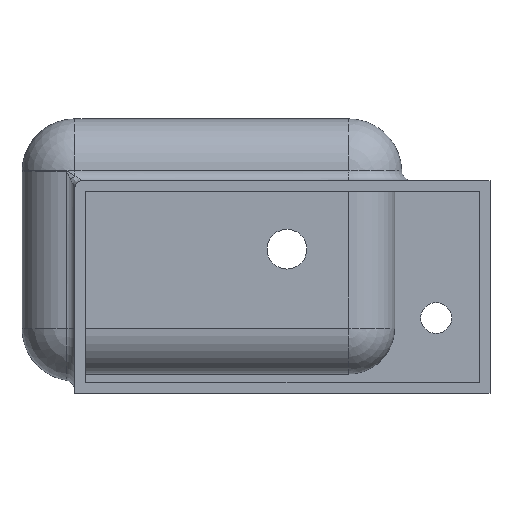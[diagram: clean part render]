
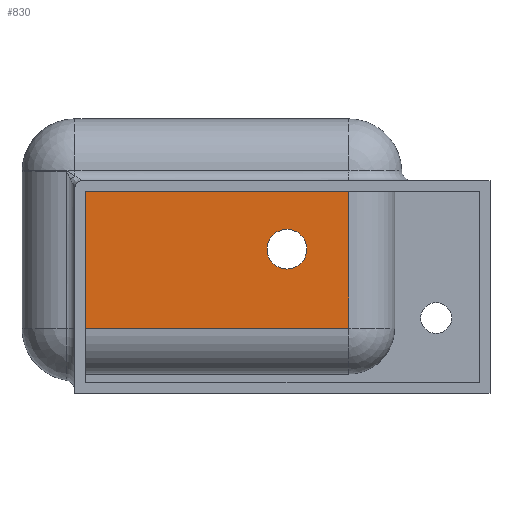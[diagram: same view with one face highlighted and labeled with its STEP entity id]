
A CAD part, front view. The second image highlights one B-rep face of the part: STEP entity #830.
In plain terms, the highlighted planar face has unit normal (0, -1, 0).
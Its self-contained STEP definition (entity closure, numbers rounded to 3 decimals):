
#76 = DIRECTION ( 'NONE',  ( 0., 0., 1. ) ) ;
#107 = ORIENTED_EDGE ( 'NONE', *, *, #1376, .T. ) ;
#189 = EDGE_CURVE ( 'NONE', #1817, #263, #2464, .T. ) ;
#208 = EDGE_CURVE ( 'NONE', #1849, #2420, #796, .T. ) ;
#244 = ORIENTED_EDGE ( 'NONE', *, *, #2140, .T. ) ;
#263 = VERTEX_POINT ( 'NONE', #1877 ) ;
#284 = CARTESIAN_POINT ( 'NONE',  ( 370., -87., 0. ) ) ;
#414 = AXIS2_PLACEMENT_3D ( 'NONE', #2504, #1986, #953 ) ;
#431 = DIRECTION ( 'NONE',  ( 0., 0., 1. ) ) ;
#479 = CARTESIAN_POINT ( 'NONE',  ( 300., -87., 126.928 ) ) ;
#614 = FACE_OUTER_BOUND ( 'NONE', #1394, .T. ) ;
#616 = CARTESIAN_POINT ( 'NONE',  ( 300., -87., 149.428 ) ) ;
#674 = DIRECTION ( 'NONE',  ( 0., 1., 0. ) ) ;
#725 = CARTESIAN_POINT ( 'NONE',  ( 72., -87., 214.804 ) ) ;
#796 = CIRCLE ( 'NONE', #1265, 22.5 ) ;
#798 = CARTESIAN_POINT ( 'NONE',  ( 430., -87., 214.804 ) ) ;
#810 = DIRECTION ( 'NONE',  ( 0., 1., 0. ) ) ;
#820 = AXIS2_PLACEMENT_3D ( 'NONE', #616, #810, #431 ) ;
#825 = DIRECTION ( 'NONE',  ( -1., 0., 0. ) ) ;
#830 = ADVANCED_FACE ( 'NONE', ( #1755, #614 ), #960, .F. ) ;
#880 = CARTESIAN_POINT ( 'NONE',  ( 300., -87., 149.428 ) ) ;
#953 = DIRECTION ( 'NONE',  ( 0., 0., 1. ) ) ;
#960 = PLANE ( 'NONE',  #414 ) ;
#980 = CARTESIAN_POINT ( 'NONE',  ( 72., -87., 0. ) ) ;
#1006 = CARTESIAN_POINT ( 'NONE',  ( 0., -87., 60. ) ) ;
#1053 = ORIENTED_EDGE ( 'NONE', *, *, #189, .T. ) ;
#1058 = VERTEX_POINT ( 'NONE', #1679 ) ;
#1235 = DIRECTION ( 'NONE',  ( 0., 0., 1. ) ) ;
#1265 = AXIS2_PLACEMENT_3D ( 'NONE', #880, #674, #76 ) ;
#1278 = ORIENTED_EDGE ( 'NONE', *, *, #208, .T. ) ;
#1342 = ORIENTED_EDGE ( 'NONE', *, *, #1350, .T. ) ;
#1350 = EDGE_CURVE ( 'NONE', #1671, #1058, #1869, .T. ) ;
#1362 = EDGE_CURVE ( 'NONE', #2420, #1849, #1898, .T. ) ;
#1376 = EDGE_CURVE ( 'NONE', #263, #1671, #2344, .T. ) ;
#1389 = VECTOR ( 'NONE', #1400, 1000. ) ;
#1394 = EDGE_LOOP ( 'NONE', ( #1342, #244, #1053, #107 ) ) ;
#1400 = DIRECTION ( 'NONE',  ( 1., 0., 0. ) ) ;
#1421 = VECTOR ( 'NONE', #2146, 1000. ) ;
#1460 = CARTESIAN_POINT ( 'NONE',  ( 370., -87., 60. ) ) ;
#1671 = VERTEX_POINT ( 'NONE', #725 ) ;
#1679 = CARTESIAN_POINT ( 'NONE',  ( 72., -87., 60. ) ) ;
#1755 = FACE_BOUND ( 'NONE', #1824, .T. ) ;
#1817 = VERTEX_POINT ( 'NONE', #1460 ) ;
#1824 = EDGE_LOOP ( 'NONE', ( #2404, #1278 ) ) ;
#1849 = VERTEX_POINT ( 'NONE', #479 ) ;
#1869 = LINE ( 'NONE', #980, #1421 ) ;
#1877 = CARTESIAN_POINT ( 'NONE',  ( 370., -87., 214.804 ) ) ;
#1889 = CARTESIAN_POINT ( 'NONE',  ( 300., -87., 171.928 ) ) ;
#1898 = CIRCLE ( 'NONE', #820, 22.5 ) ;
#1926 = LINE ( 'NONE', #1006, #1389 ) ;
#1986 = DIRECTION ( 'NONE',  ( 0., 1., 0. ) ) ;
#2140 = EDGE_CURVE ( 'NONE', #1058, #1817, #1926, .T. ) ;
#2146 = DIRECTION ( 'NONE',  ( 0., 0., -1. ) ) ;
#2344 = LINE ( 'NONE', #798, #2431 ) ;
#2368 = VECTOR ( 'NONE', #1235, 1000. ) ;
#2404 = ORIENTED_EDGE ( 'NONE', *, *, #1362, .T. ) ;
#2420 = VERTEX_POINT ( 'NONE', #1889 ) ;
#2431 = VECTOR ( 'NONE', #825, 1000. ) ;
#2464 = LINE ( 'NONE', #284, #2368 ) ;
#2504 = CARTESIAN_POINT ( 'NONE',  ( 0., -87., 0. ) ) ;
